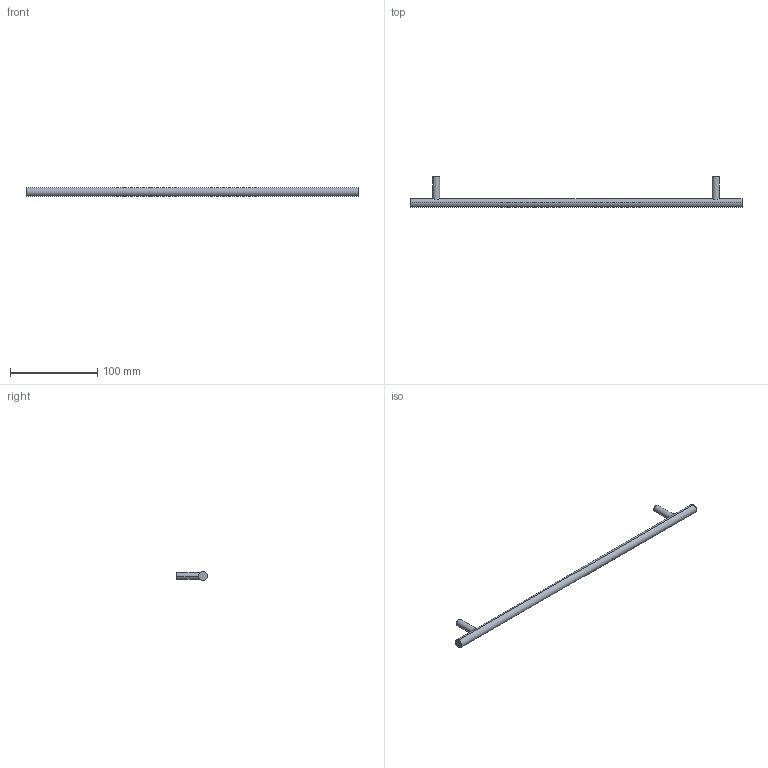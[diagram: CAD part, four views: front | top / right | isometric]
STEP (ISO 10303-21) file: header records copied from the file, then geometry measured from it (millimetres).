
FILE_DESCRIPTION( ( '' ), '1' );
FILE_NAME( 'D:/1.AUTOCAD EXPORT/Group 10/sheet_10_1/9070993.stp', '2013-10-21T10:13:51', ( '' ), ( '' ), ' ', ' ', ' ' );
FILE_SCHEMA( ( 'automotive_design' ) );
Length unit declared in the file: millimetre
Products named in the file (1): 1
Bounding box: 380 x 35 x 10 mm (x, y, z)
Volume: 32101.2 mm3; surface area: 13689.4 mm2
Topology: 1 solids, 1 shells, 16 faces, 32 edges, 22 vertices
Faces by surface type: cylinder 10, plane 6
Entity records: 972 total; most frequent: CARTESIAN_POINT 205, DIRECTION 76, STYLED_ITEM 71, PRESENTATION_STYLE_ASSIGNMENT 71, COLOUR_RGB 71, ORIENTED_EDGE 64, AXIS2_PLACEMENT_3D 33, EDGE_CURVE 32
